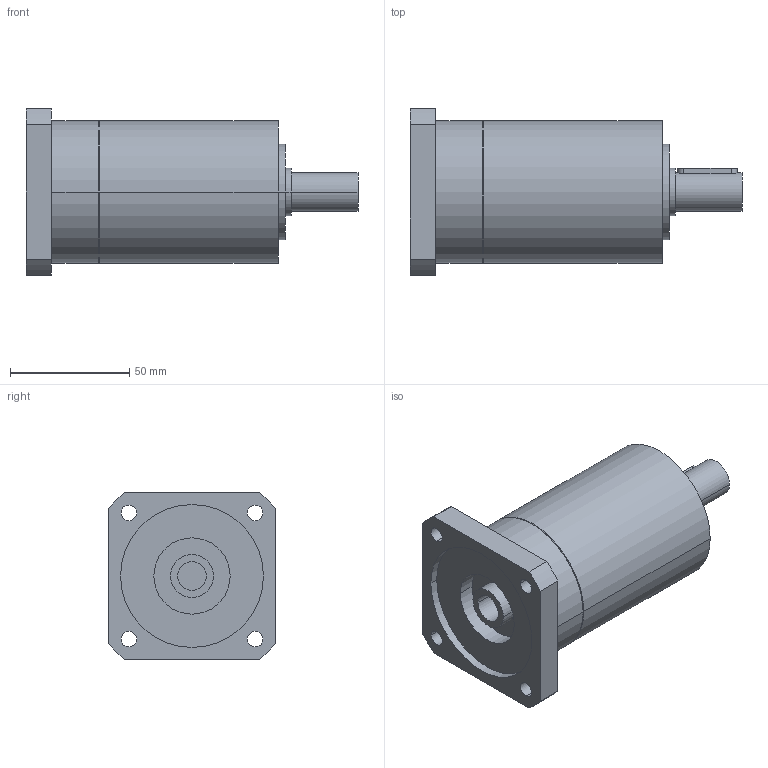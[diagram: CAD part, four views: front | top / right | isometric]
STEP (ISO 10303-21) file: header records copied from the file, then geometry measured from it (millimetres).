
FILE_DESCRIPTION(('CoCreate Modeling STEP Export'),'2;1');
FILE_NAME('GPR75_ig-9-12-16-20-24-30-36_16_B14_12_P04.stp','2014-08-25T16:02:32',(''),(''),'CoCreate Modeling STEP processor for AP214 (Solid Model)','CoCreate Modeling 16.00C 25-Feb-2009 (C) Parametric Technology GmbH','');
FILE_SCHEMA(('AUTOMOTIVE_DESIGN { 1 0 10303 214 1 1 1 1 }'));
Length unit declared in the file: millimetre
Products named in the file (2): GPR75_ig-9-12-16-20-24-30-36_16_B14_12_P04
Assembly tree (1 placements, depth 2):
  GPR75_ig-9-12-16-20-24-30-36_16_B14_12_P04
    GPR75_ig-9-12-16-20-24-30-36_16_B14_12_P04
Bounding box: 139.4 x 70 x 70 mm (x, y, z)
Volume: 311269.5 mm3; surface area: 36818.5 mm2
Topology: 1 solids, 1 shells, 70 faces, 188 edges, 132 vertices
Faces by surface type: cylinder 42, plane 22, cone 6
Entity records: 1939 total; most frequent: ORIENTED_EDGE 372, CARTESIAN_POINT 360, DIRECTION 262, EDGE_CURVE 186, VERTEX_POINT 132, AXIS2_PLACEMENT_3D 98, EDGE_LOOP 92, FACE_OUTER_BOUND 70
